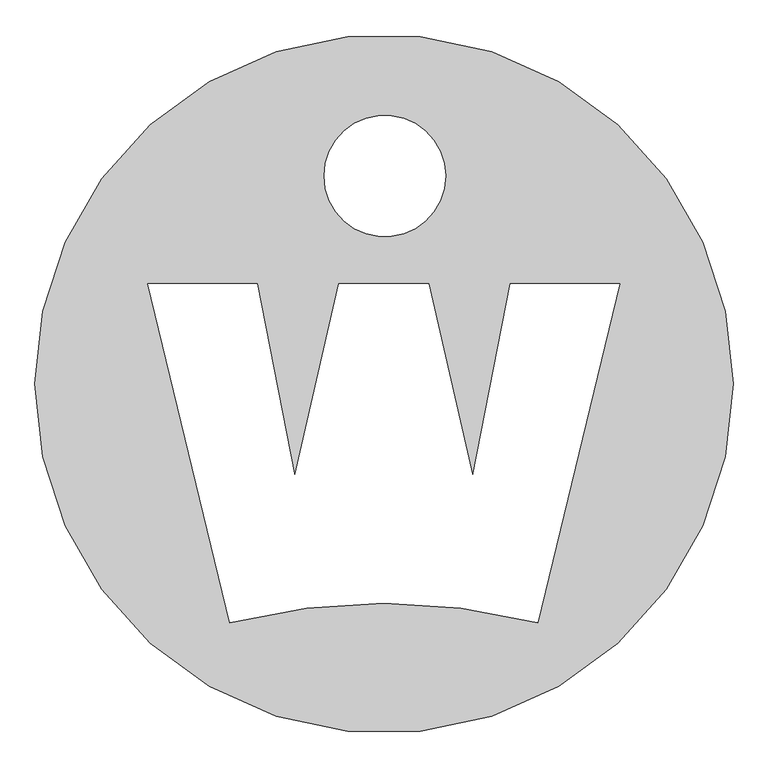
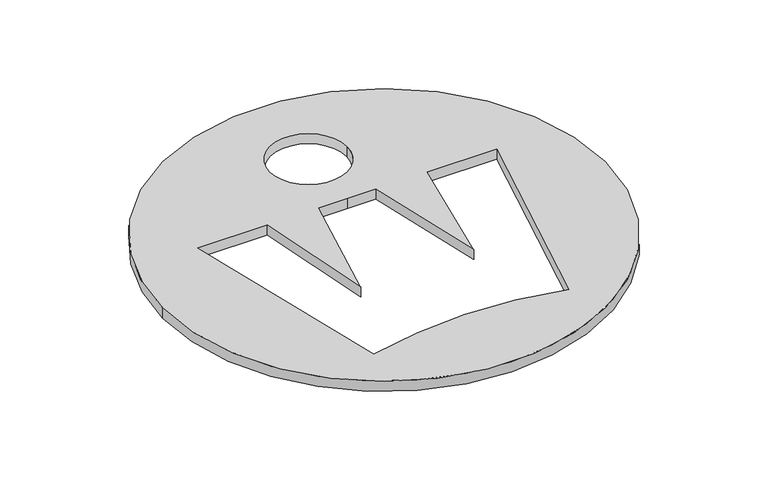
"""IFC4 building model written with IfcOpenShell, lengths in millimetres: proxy geometry, 74_WISA_logo : 74_WISA_logo."""

from ifc_helpers import new_model, si_unit, point, frame_2d, origin, origin_with_axes, origin_2d, place, context, project, spatial, polyline, circle_curve, trimmed, segment, composite_curve, outline, extrude, source, transform, mapped, element, save


def generic_models_9bd11f08(model_context):
    return source(origin(), model_context, "Body", "SweptSolid", [
        extrude(outline(composite_curve([segment(trimmed(circle_curve(origin_2d(), 1035.0), [point((-1035.0, 0.0))], [point((1035.0, 0.0))], False, "CARTESIAN"), True, "CONTINUOUS"), segment(trimmed(circle_curve(origin_2d(), 1035.0), [point((1035.0, 0.0))], [point((-1035.0, 0.0))], False, "CARTESIAN"), True, "CONTINUOUS")], self_intersect=False), holes=[composite_curve([segment(trimmed(circle_curve(frame_2d((2.4065761, 616.8928725)), 180.0), [point((-177.5934239, 616.8928725))], [point((182.4065761, 616.8928725))], True, "CARTESIAN"), True, "CONTINUOUS"), segment(trimmed(circle_curve(frame_2d((2.4065761, 616.8928725)), 180.0), [point((182.4065761, 616.8928725))], [point((-177.5934239, 616.8928725))], True, "CARTESIAN"), True, "CONTINUOUS")], self_intersect=False), composite_curve([segment(polyline([(-375.6626205, 296.648424), (-700.8542112, 296.648424), (-457.0923579, -707.2691373)]), True, "CONTINUOUS"), segment(trimmed(circle_curve(frame_2d((5.1966923, -2550.1714229)), 1900.0), [point((-457.0923579, -707.2691373))], [point((-0.8542112, -650.181058))], False, "CARTESIAN"), True, "CONTINUOUS"), segment(trimmed(circle_curve(frame_2d((-6.9051147, -2550.1714229)), 1900.0), [point((-0.8542112, -650.181058))], [point((455.3839354, -707.2691373))], False, "CARTESIAN"), True, "CONTINUOUS"), segment(polyline([(455.3839354, -707.2691373), (699.1457888, 296.648424), (373.954198, 296.648424), (263.5555226, -271.3035254), (132.4334834, 296.648424), (-0.8542112, 296.648424), (-134.1419058, 296.648424), (-265.263945, -271.3035254), (-375.6626205, 296.648424)]), True, "CONTINUOUS")], self_intersect=False)]), origin_with_axes(), (0.0, 0.0, 1.0), 50.0),
    ])


if __name__ == "__main__":
    model = new_model("IFC4")
    model_context = context("Model", 3, world=origin())
    ifc_project = project(units=[si_unit("LENGTHUNIT", "METRE", prefix="MILLI")], contexts=[model_context])
    site = spatial("IfcSite", under=ifc_project)
    building = spatial("IfcBuilding", under=site)
    placement = place(None, origin())
    generic_models_shape = generic_models_9bd11f08(model_context)
    element("IfcBuildingElementProxy", 1, Name="74_WISA_logo : 74_WISA_logo", ObjectType="74_WISA_logo : 74_WISA_logo", at=placement, inside=building, context=model_context, shape_type="MappedRepresentation", body=[
        mapped(generic_models_shape, transform((0.0, 0.0, 0.0), x_axis=(1.0, 0.0, 0.0), y_axis=(0.0, 1.0, 0.0), z_axis=(0.0, 0.0, 1.0))),
    ])
    save(model, "model.ifc")
